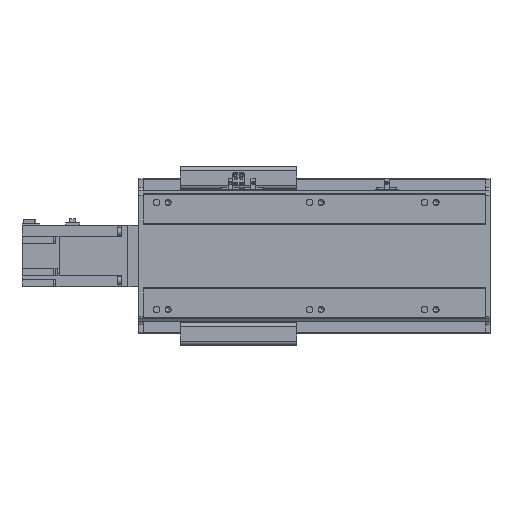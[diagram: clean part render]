
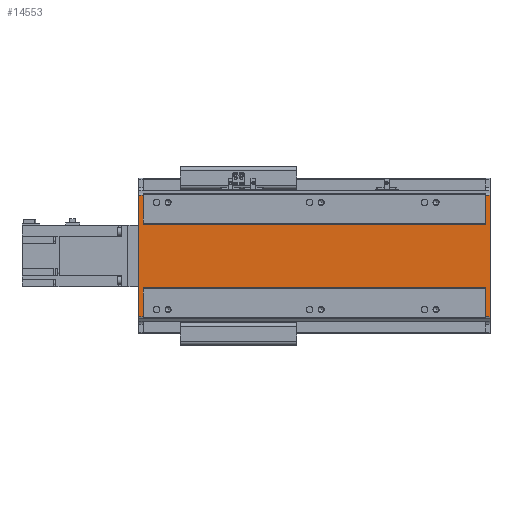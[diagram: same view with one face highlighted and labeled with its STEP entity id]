
A CAD part, front view. The second image highlights one B-rep face of the part: STEP entity #14553.
In plain terms, the highlighted planar face has unit normal (0, -1, 0).
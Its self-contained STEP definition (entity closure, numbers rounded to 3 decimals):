
#3215=ORIENTED_EDGE('',*,*,#6416,.T.);
#3216=ORIENTED_EDGE('',*,*,#6417,.F.);
#3217=ORIENTED_EDGE('',*,*,#6418,.F.);
#3218=ORIENTED_EDGE('',*,*,#6419,.F.);
#3219=ORIENTED_EDGE('',*,*,#6326,.T.);
#3220=ORIENTED_EDGE('',*,*,#6420,.T.);
#3221=ORIENTED_EDGE('',*,*,#6421,.F.);
#3222=ORIENTED_EDGE('',*,*,#6422,.F.);
#3223=ORIENTED_EDGE('',*,*,#6325,.T.);
#3224=ORIENTED_EDGE('',*,*,#6423,.T.);
#3225=ORIENTED_EDGE('',*,*,#6424,.F.);
#3226=ORIENTED_EDGE('',*,*,#6414,.T.);
#6325=EDGE_CURVE('',#8064,#8069,#9437,.T.);
#6326=EDGE_CURVE('',#8070,#8071,#9438,.T.);
#6414=EDGE_CURVE('',#8138,#8137,#9495,.T.);
#6416=EDGE_CURVE('',#8137,#8139,#9496,.T.);
#6417=EDGE_CURVE('',#8140,#8139,#9497,.T.);
#6418=EDGE_CURVE('',#8141,#8140,#9498,.T.);
#6419=EDGE_CURVE('',#8070,#8141,#9499,.T.);
#6420=EDGE_CURVE('',#8071,#8142,#9500,.T.);
#6421=EDGE_CURVE('',#8143,#8142,#9501,.T.);
#6422=EDGE_CURVE('',#8064,#8143,#9502,.T.);
#6423=EDGE_CURVE('',#8069,#8144,#9503,.T.);
#6424=EDGE_CURVE('',#8138,#8144,#9504,.T.);
#8064=VERTEX_POINT('',#23507);
#8069=VERTEX_POINT('',#23517);
#8070=VERTEX_POINT('',#23521);
#8071=VERTEX_POINT('',#23522);
#8137=VERTEX_POINT('',#23694);
#8138=VERTEX_POINT('',#23696);
#8139=VERTEX_POINT('',#23700);
#8140=VERTEX_POINT('',#23702);
#8141=VERTEX_POINT('',#23704);
#8142=VERTEX_POINT('',#23707);
#8143=VERTEX_POINT('',#23709);
#8144=VERTEX_POINT('',#23712);
#9437=LINE('',#23518,#10861);
#9438=LINE('',#23520,#10862);
#9495=LINE('',#23695,#10919);
#9496=LINE('',#23699,#10920);
#9497=LINE('',#23701,#10921);
#9498=LINE('',#23703,#10922);
#9499=LINE('',#23705,#10923);
#9500=LINE('',#23706,#10924);
#9501=LINE('',#23708,#10925);
#9502=LINE('',#23710,#10926);
#9503=LINE('',#23711,#10927);
#9504=LINE('',#23713,#10928);
#10861=VECTOR('',#18785,1000.);
#10862=VECTOR('',#18788,1000.);
#10919=VECTOR('',#18945,1000.);
#10920=VECTOR('',#18950,1000.);
#10921=VECTOR('',#18951,1000.);
#10922=VECTOR('',#18952,1000.);
#10923=VECTOR('',#18953,1000.);
#10924=VECTOR('',#18954,1000.);
#10925=VECTOR('',#18955,1000.);
#10926=VECTOR('',#18956,1000.);
#10927=VECTOR('',#18957,1000.);
#10928=VECTOR('',#18958,1000.);
#11961=EDGE_LOOP('',(#3215,#3216,#3217,#3218,#3219,#3220,#3221,#3222,#3223,
#3224,#3225,#3226));
#13043=FACE_BOUND('',#11961,.T.);
#13872=PLANE('',#15808);
#14553=ADVANCED_FACE('',(#13043),#13872,.F.);
#15808=AXIS2_PLACEMENT_3D('',#23698,#18948,#18949);
#18785=DIRECTION('',(0.,0.,-1.));
#18788=DIRECTION('',(0.,0.,-1.));
#18945=DIRECTION('',(-1.,0.,0.));
#18948=DIRECTION('',(0.,1.,0.));
#18949=DIRECTION('',(0.,0.,1.));
#18950=DIRECTION('',(0.,0.,-1.));
#18951=DIRECTION('',(-1.,0.,0.));
#18952=DIRECTION('',(0.,0.,-1.));
#18953=DIRECTION('',(-1.,0.,0.));
#18954=DIRECTION('',(1.,0.,0.));
#18955=DIRECTION('',(0.,0.,-1.));
#18956=DIRECTION('',(1.,0.,0.));
#18957=DIRECTION('',(-1.,0.,0.));
#18958=DIRECTION('',(0.,0.,-1.));
#23507=CARTESIAN_POINT('',(453.,1.,79.16));
#23517=CARTESIAN_POINT('',(453.,1.,41.793));
#23518=CARTESIAN_POINT('',(453.,1.,79.16));
#23520=CARTESIAN_POINT('',(453.,1.,84.5));
#23521=CARTESIAN_POINT('',(453.,1.,-41.793));
#23522=CARTESIAN_POINT('',(453.,1.,-79.16));
#23694=CARTESIAN_POINT('',(0.,1.,79.16));
#23695=CARTESIAN_POINT('',(6.,1.,79.16));
#23696=CARTESIAN_POINT('',(6.,1.,79.16));
#23698=CARTESIAN_POINT('',(6.,1.,79.16));
#23699=CARTESIAN_POINT('',(0.,1.,79.16));
#23700=CARTESIAN_POINT('',(0.,1.,-79.16));
#23701=CARTESIAN_POINT('',(6.,1.,-79.16));
#23702=CARTESIAN_POINT('',(6.,1.,-79.16));
#23703=CARTESIAN_POINT('',(6.,1.,79.16));
#23704=CARTESIAN_POINT('',(6.,1.,-41.793));
#23705=CARTESIAN_POINT('',(453.,1.,-41.793));
#23706=CARTESIAN_POINT('',(453.,1.,-79.16));
#23707=CARTESIAN_POINT('',(459.,1.,-79.16));
#23708=CARTESIAN_POINT('',(459.,1.,79.16));
#23709=CARTESIAN_POINT('',(459.,1.,79.16));
#23710=CARTESIAN_POINT('',(453.,1.,79.16));
#23711=CARTESIAN_POINT('',(453.,1.,41.793));
#23712=CARTESIAN_POINT('',(6.,1.,41.793));
#23713=CARTESIAN_POINT('',(6.,1.,79.16));
